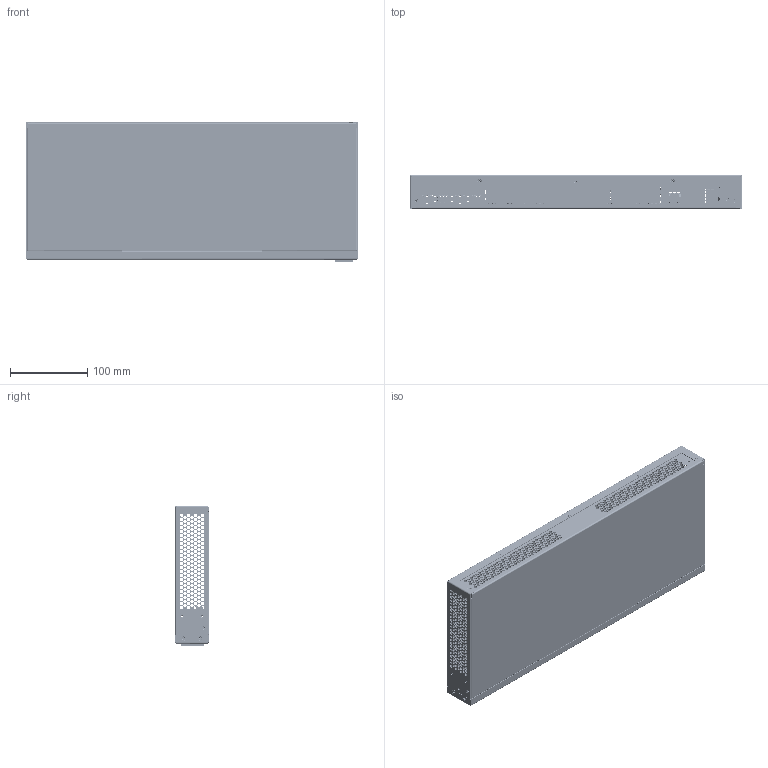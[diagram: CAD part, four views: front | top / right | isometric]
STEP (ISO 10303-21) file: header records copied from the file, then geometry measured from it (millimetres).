
FILE_DESCRIPTION (( 'STEP AP214' ), '1' );
FILE_NAME ('MES2428B.STEP', '2024-08-16T02:56:40', ( '' ), ( '' ), 'SwSTEP 2.0', 'SolidWorks 2023', '' );
FILE_SCHEMA (( 'AUTOMOTIVE_DESIGN' ));
Length unit declared in the file: millimetre
Products named in the file (1): MES2428B
Bounding box: 430 x 43.6 x 181.3 mm (x, y, z)
Volume: 347626.8 mm3; surface area: 517523.7 mm2
Topology: 90 solids, 90 shells, 17769 faces, 49601 edges, 32196 vertices
Faces by surface type: plane 12602, cylinder 3466, cone 1617, torus 44, bspline 40
Entity records: 570003 total; most frequent: CARTESIAN_POINT 101770, ORIENTED_EDGE 99078, DIRECTION 93408, EDGE_CURVE 49539, VECTOR 40552, LINE 40552, VERTEX_POINT 32196, AXIS2_PLACEMENT_3D 26428
